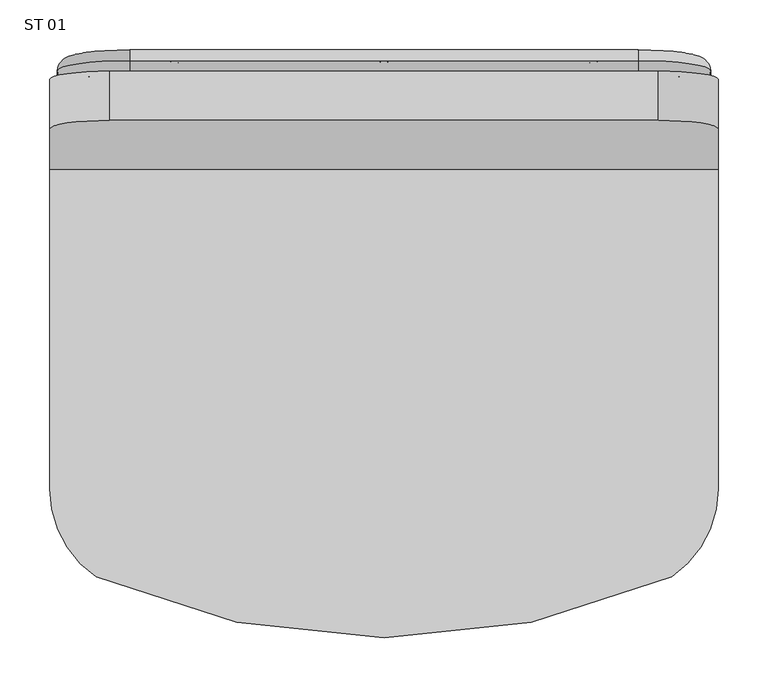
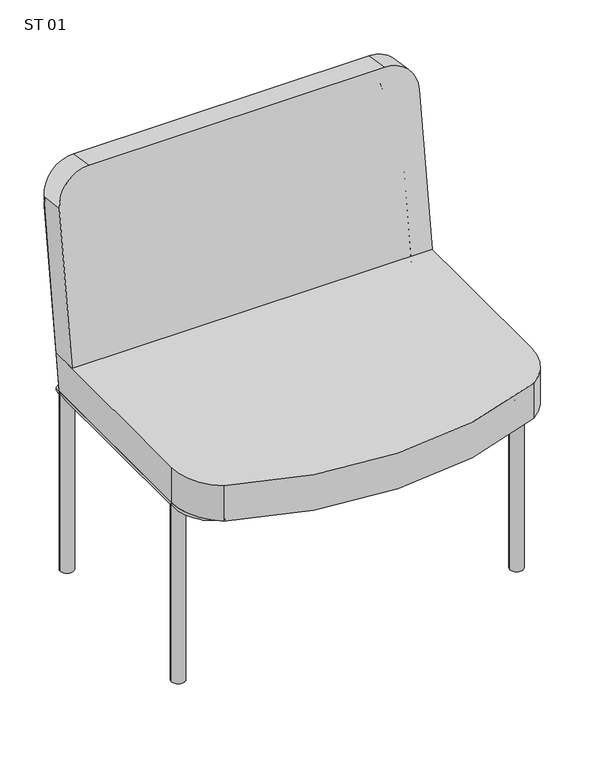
"""IFC4 building model written with IfcOpenShell, lengths in millimetres: furniture geometry, Mobiliário_Mobiliário de Escritório_Sofá - ST 01_Marelli : ST 01."""

import ifcopenshell
import ifcopenshell.guid

model = None  # the IFC model being written
_history = None  # IfcOwnerHistory: only IFC2X3 demands one
_inside = {}  # id of a spatial element -> (the spatial element, [elements in it])
_under = {}  # id of a project, library or spatial element -> (it, [spatial elements below it])
_declared = {}  # id of a project -> (the project, [libraries it declares])
_typed = {}  # id of a type object -> (the type object, [elements of that type])
_made_of = {}  # id of a material, layer set ... -> (it, [elements and type objects made of it])


def new_model(schema):
    """Start an empty IFC model of exactly this schema.

    Asked for "IFC4X3", IfcOpenShell would pick the latest addendum, in which some entities
    have other attributes; the version numbers below select the first issue.
    IFC2X3 requires an IfcOwnerHistory on every rooted entity: one is made here for all.
    """
    global model, _history
    if schema == "IFC4X3":
        model = ifcopenshell.file(schema_version=(4, 3, 0, 0))
    else:
        model = ifcopenshell.file(schema=schema)
    _inside.clear()
    _under.clear()
    _declared.clear()
    _typed.clear()
    _made_of.clear()
    _history = None
    if model.schema == "IFC2X3":
        org = make("IfcOrganization", Name="unknown")
        user = make(
            "IfcPersonAndOrganization",
            ThePerson=make("IfcPerson", FamilyName="unknown"),
            TheOrganization=org,
        )
        app = make(
            "IfcApplication",
            ApplicationDeveloper=org,
            Version="unknown",
            ApplicationFullName="unknown",
            ApplicationIdentifier="unknown",
        )
        _history = make(
            "IfcOwnerHistory",
            OwningUser=user,
            OwningApplication=app,
            ChangeAction="ADDED",
            CreationDate=0,
        )
    return model


def make(cls, **values):
    """One entity of the class cls with the attributes given. An attribute that is None is left unset."""
    return model.create_entity(
        cls, **{name: value for name, value in values.items() if value is not None}
    )


def rooted(cls, **values):
    """An entity with a GlobalId (a new one), such as an element, a storey or a relation."""
    return make(cls, GlobalId=ifcopenshell.guid.new(), OwnerHistory=_history, **values)


def si_unit(unit_type, name, prefix=None):
    """IfcSIUnit, for example si_unit("LENGTHUNIT", "METRE", prefix="MILLI")."""
    return make("IfcSIUnit", UnitType=unit_type, Prefix=prefix, Name=name)


def assignment(units):
    """IfcUnitAssignment: the units of a project."""
    return None if units is None else make("IfcUnitAssignment", Units=units)


def point(xyz):
    """IfcCartesianPoint."""
    return None if xyz is None else make("IfcCartesianPoint", Coordinates=xyz)


def direction(xyz):
    """IfcDirection."""
    return None if xyz is None else make("IfcDirection", DirectionRatios=xyz)


def frame(location, z_axis=None, x_axis=None):
    """IfcAxis2Placement3D, a coordinate frame: its origin and axes. An axis left out is left unset."""
    return make(
        "IfcAxis2Placement3D",
        Location=point(location),
        Axis=direction(z_axis),
        RefDirection=direction(x_axis),
    )


def frame_2d(location, x_axis=None):
    """IfcAxis2Placement2D, a coordinate frame in the plane: its origin and x axis."""
    return make(
        "IfcAxis2Placement2D", Location=point(location), RefDirection=direction(x_axis)
    )


def origin():
    """The frame at (0, 0, 0) with its axes left unset."""
    return frame((0.0, 0.0, 0.0))


def origin_with_axes():
    """The frame at (0, 0, 0) with the z axis (0, 0, 1) and the x axis (1, 0, 0) written out."""
    return frame((0.0, 0.0, 0.0), z_axis=(0.0, 0.0, 1.0), x_axis=(1.0, 0.0, 0.0))


def place(relative_to, where):
    """IfcLocalPlacement: puts the frame where relative to a parent placement (None: the world)."""
    return make(
        "IfcLocalPlacement", PlacementRelTo=relative_to, RelativePlacement=where
    )


def context(
    kind, dimensions, precision=None, world=None, true_north=None, identifier=None
):
    """IfcGeometricRepresentationContext, for example the 3D "Model" context."""
    return make(
        "IfcGeometricRepresentationContext",
        ContextIdentifier=identifier,
        ContextType=kind,
        CoordinateSpaceDimension=dimensions,
        Precision=precision,
        WorldCoordinateSystem=world,
        TrueNorth=true_north,
    )


def project(units=None, contexts=None):
    """IfcProject with its units and contexts."""
    return rooted(
        "IfcProject",
        Name="project",
        RepresentationContexts=contexts,
        UnitsInContext=assignment(units),
    )


def spatial(cls, under=None, at=None, **own):
    """A site, building, storey or space (cls), placed at a placement, below another one or the project."""
    s = rooted(cls, ObjectPlacement=at, **own)
    if under is not None:
        _under.setdefault(under.id(), (under, []))[1].append(s)
    return s


def circle_curve(where, radius):
    """IfcCircle in the frame where."""
    return make("IfcCircle", Position=where, Radius=radius)


def ellipse_curve(where, semi_axis1, semi_axis2):
    """IfcEllipse in the frame where."""
    return make(
        "IfcEllipse", Position=where, SemiAxis1=semi_axis1, SemiAxis2=semi_axis2
    )


def trimmed(basis, trim1, trim2, sense, master):
    """IfcTrimmedCurve: the piece of a basis curve between two trims."""
    return make(
        "IfcTrimmedCurve",
        BasisCurve=basis,
        Trim1=trim1,
        Trim2=trim2,
        SenseAgreement=sense,
        MasterRepresentation=master,
    )


def segment(curve, same_sense, transition):
    """IfcCompositeCurveSegment."""
    return make(
        "IfcCompositeCurveSegment",
        Transition=transition,
        SameSense=same_sense,
        ParentCurve=curve,
    )


def composite_curve(segments, self_intersect=None):
    """IfcCompositeCurve: segments joined end to end."""
    return make("IfcCompositeCurve", Segments=segments, SelfIntersect=self_intersect)


def outline(outer, holes=None, kind="AREA"):
    """IfcArbitraryClosedProfileDef: a profile drawn as a closed curve; with holes, ...WithVoids."""
    if holes is None:
        return make("IfcArbitraryClosedProfileDef", ProfileType=kind, OuterCurve=outer)
    return make(
        "IfcArbitraryProfileDefWithVoids",
        ProfileType=kind,
        OuterCurve=outer,
        InnerCurves=holes,
    )


def extrude(swept, where, along, depth):
    """IfcExtrudedAreaSolid: the profile swept, set in the frame where, extruded along a direction by depth."""
    return make(
        "IfcExtrudedAreaSolid",
        SweptArea=swept,
        Position=where,
        ExtrudedDirection=direction(along),
        Depth=depth,
    )


def shape(context_of_items, identifier, shape_type, items):
    """IfcShapeRepresentation: the items that make up one representation, for example the "Body"."""
    return make(
        "IfcShapeRepresentation",
        ContextOfItems=context_of_items,
        RepresentationIdentifier=identifier,
        RepresentationType=shape_type,
        Items=items,
    )


def source(mapping_origin, context_of_items, identifier, shape_type, items):
    """IfcRepresentationMap: a shape defined once, which mapped items show again and again."""
    return make(
        "IfcRepresentationMap",
        MappingOrigin=mapping_origin,
        MappedRepresentation=shape(context_of_items, identifier, shape_type, items),
    )


def transform(
    local_origin,
    x_axis=None,
    y_axis=None,
    z_axis=None,
    scale=None,
    scale2=None,
    scale3=None,
    uniform=True,
):
    """IfcCartesianTransformationOperator3D, or its non-uniform kind. x_axis, y_axis, z_axis: its Axis1, 2, 3."""
    if uniform:
        return make(
            "IfcCartesianTransformationOperator3D",
            Axis1=direction(x_axis),
            Axis2=direction(y_axis),
            LocalOrigin=point(local_origin),
            Scale=scale,
            Axis3=direction(z_axis),
        )
    return make(
        "IfcCartesianTransformationOperator3DnonUniform",
        Axis1=direction(x_axis),
        Axis2=direction(y_axis),
        LocalOrigin=point(local_origin),
        Scale=scale,
        Axis3=direction(z_axis),
        Scale2=scale2,
        Scale3=scale3,
    )


def mapped(mapping_source, mapping_target):
    """IfcMappedItem: shows the shape of a source again, moved by a transform."""
    return make(
        "IfcMappedItem", MappingSource=mapping_source, MappingTarget=mapping_target
    )


def made_of(thing, what):
    """Note that an element or type object is made of a material, layer set ...; save() writes the relation."""
    if what is not None:
        _made_of.setdefault(what.id(), (what, []))[1].append(thing)
    return thing


def element(
    cls,
    number,
    at=None,
    inside=None,
    cuts=None,
    type_object=None,
    material=None,
    context=None,
    identifier="Body",
    shape_type=None,
    held_by="IfcProductDefinitionShape",
    body=None,
    shapes=None,
    **own,
):
    """One element of the class cls, such as IfcWall. Its Tag is "e" and its number.

    at: its placement. inside: the storey or other place that contains it. cuts: it is an
    opening in that element (IfcRelVoidsElement). A single representation is given by context,
    identifier, shape_type and body (its items); several are given by shapes. held_by: the class
    of the entity that holds the representations. save() writes the other relations.
    """
    e = rooted(cls, Tag="e%d" % number, ObjectPlacement=at, **own)
    if body is not None:
        shapes = [shape(context, identifier, shape_type, body)]
    if shapes is not None:
        e.Representation = make(held_by, Representations=shapes)
    if inside is not None:
        _inside.setdefault(inside.id(), (inside, []))[1].append(e)
    if cuts is not None:
        rooted(
            "IfcRelVoidsElement", RelatingBuildingElement=cuts, RelatedOpeningElement=e
        )
    if type_object is not None:
        _typed.setdefault(type_object.id(), (type_object, []))[1].append(e)
    return made_of(e, material)


def aggregate(whole, parts):
    """IfcRelAggregates: a whole, such as a stair, and the parts it consists of."""
    return rooted("IfcRelAggregates", RelatingObject=whole, RelatedObjects=parts)


def save(model, path):
    """Write the relations noted so far, then the file.

    IfcRelAggregates (storeys below a building ...), IfcRelContainedInSpatialStructure (elements
    in a storey), IfcRelDefinesByType, IfcRelAssociatesMaterial and IfcRelDeclares: one each for
    every whole, place, type object, material and project.
    """
    for whole, parts in _under.values():
        aggregate(whole, parts)
    for where, things in _inside.values():
        rooted(
            "IfcRelContainedInSpatialStructure",
            RelatedElements=things,
            RelatingStructure=where,
        )
    for kind, things in _typed.values():
        rooted("IfcRelDefinesByType", RelatedObjects=things, RelatingType=kind)
    for what, things in _made_of.values():
        rooted("IfcRelAssociatesMaterial", RelatedObjects=things, RelatingMaterial=what)
    for by, libraries in _declared.values():
        rooted("IfcRelDeclares", RelatingContext=by, RelatedDefinitions=libraries)
    model.write(path)


def plane_surface(at):
    """IfcPlane: the flat surface through the origin of the frame at, square to its z axis."""
    return make("IfcPlane", Position=at)


def cylinder_surface(at, radius):
    """IfcCylindricalSurface: all points at the distance radius from the z axis of the frame at."""
    return make("IfcCylindricalSurface", Position=at, Radius=radius)


def revolved_surface(curve, axis_point, axis_direction):
    """IfcSurfaceOfRevolution: the curve turned about the line through axis_point along axis_direction."""
    return make(
        "IfcSurfaceOfRevolution",
        SweptCurve=make("IfcArbitraryOpenProfileDef", ProfileType="CURVE", Curve=curve),
        AxisPosition=make("IfcAxis1Placement", Location=point(axis_point), Axis=direction(axis_direction)),
    )


def extruded_surface(curve, direction_of_extrusion, depth):
    """IfcSurfaceOfLinearExtrusion: the curve pushed along a direction by depth."""
    return make(
        "IfcSurfaceOfLinearExtrusion",
        SweptCurve=make("IfcArbitraryOpenProfileDef", ProfileType="CURVE", Curve=curve),
        ExtrudedDirection=direction(direction_of_extrusion),
        Depth=depth,
    )


def advanced_brep(points, edges, surfaces, faces):
    """IfcAdvancedBrep: a solid bounded by faces that lie on surfaces and meet in shared edges.

    An edge is (start, end): straight between two places in points (the first is 0);
    or (start, end, curve); or (start, end, curve, False) where it runs against its curve.
    A face is (place in surfaces, loops), or (place, loops, False) where it looks against
    its surface's normal. A loop lists edges by number (the first is 1), with a minus sign
    where the edge is run from its end to its start. The first loop is the outer one.
    """
    corners = [point(p) for p in points]
    vertices = [make("IfcVertexPoint", VertexGeometry=c) for c in corners]
    made = []
    for start, end, *more in edges:
        made.append(
            make(
                "IfcEdgeCurve",
                EdgeStart=vertices[start],
                EdgeEnd=vertices[end],
                EdgeGeometry=more[0] if more else make("IfcPolyline", Points=[corners[start], corners[end]]),
                SameSense=more[1] if len(more) > 1 else True,
            )
        )
    hull = []
    for where, loops, *sense in faces:
        bounds = []
        for j, loop in enumerate(loops):
            ring = [make("IfcOrientedEdge", EdgeElement=made[abs(k) - 1], Orientation=k > 0) for k in loop]
            bounds.append(
                make(
                    "IfcFaceOuterBound" if j == 0 else "IfcFaceBound",
                    Bound=make("IfcEdgeLoop", EdgeList=ring),
                    Orientation=True,
                )
            )
        hull.append(make("IfcAdvancedFace", Bounds=bounds, FaceSurface=surfaces[where], SameSense=sense[0] if sense else True))
    return make("IfcAdvancedBrep", Outer=make("IfcClosedShell", CfsFaces=hull))


def st_01_29b2883a(model_context):
    return source(origin(), model_context, "Body", "SolidModel", [
        advanced_brep(
        [(617.5, 412.5, 351.5), (642.5, 437.5, 351.5), (642.5, 65.0, 351.5), (617.5, 65.0, 351.5), (565.0, 12.5, 351.5), (565.0, -12.5, 351.5), (65.0, -12.5, 351.5), (65.0, 12.5, 351.5), (12.5, 65.0, 351.5), (-12.5, 65.0, 351.5), (-12.5, 437.5, 351.5), (12.5, 412.5, 351.5)],
        [
            (0, 1, ellipse_curve(frame((630.0, 425.0, 351.5), z_axis=(0.7071067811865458, -0.7071067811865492, 0.0), x_axis=(0.7071067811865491, 0.7071067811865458, 0.0)), 17.6776695, 12.5)),
            (1, 2),
            (2, 3, circle_curve(frame((630.0, 65.0, 351.5), z_axis=(0.0, 1.0, 0.0), x_axis=(-1.0, 0.0, 0.0)), 12.5)),
            (3, 0),
            (1, 0, ellipse_curve(frame((630.0, 425.0, 351.5), z_axis=(0.7071067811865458, -0.7071067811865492, 0.0), x_axis=(0.7071067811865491, 0.7071067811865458, 0.0)), 17.6776695, 12.5)),
            (3, 2, circle_curve(frame((630.0, 65.0, 351.5), z_axis=(0.0, 1.0, 0.0), x_axis=(-1.0, 0.0, 0.0)), 12.5)),
            (4, 3, circle_curve(frame((565.0, 65.0, 351.5), z_axis=(0.0, 0.0, 1.0), x_axis=(1.0, 0.0, 0.0)), 52.5)),
            (2, 5, circle_curve(frame((565.0, 65.0, 351.5), z_axis=(0.0, 0.0, -1.0), x_axis=(1.0, 0.0, 0.0)), 77.5)),
            (5, 4, circle_curve(frame((565.0, 0.0, 351.5), z_axis=(1.0, 0.0, 0.0), x_axis=(0.0, 1.0, 0.0)), 12.5)),
            (4, 5, circle_curve(frame((565.0, 0.0, 351.5), z_axis=(1.0, 0.0, 0.0), x_axis=(0.0, 1.0, 0.0)), 12.5)),
            (5, 6),
            (6, 7, circle_curve(frame((65.0, 0.0, 351.5), z_axis=(1.0, 0.0, 0.0), x_axis=(0.0, 1.0, 0.0)), 12.5)),
            (7, 4),
            (7, 6, circle_curve(frame((65.0, 0.0, 351.5), z_axis=(1.0, 0.0, 0.0), x_axis=(0.0, 1.0, 0.0)), 12.5)),
            (8, 7, circle_curve(frame((65.0, 65.0, 351.5), z_axis=(0.0, 0.0, 1.0), x_axis=(0.0, -1.0, 0.0)), 52.5)),
            (6, 9, circle_curve(frame((65.0, 65.0, 351.5), z_axis=(0.0, 0.0, -1.0), x_axis=(0.0, -1.0, 0.0)), 77.5)),
            (9, 8, circle_curve(frame((0.0, 65.0, 351.5), z_axis=(0.0, -1.0, 0.0), x_axis=(1.0, 0.0, 0.0)), 12.5)),
            (8, 9, circle_curve(frame((0.0, 65.0, 351.5), z_axis=(0.0, -1.0, 0.0), x_axis=(1.0, 0.0, 0.0)), 12.5)),
            (9, 10),
            (10, 11, ellipse_curve(frame((0.0, 425.0, 351.5), z_axis=(-0.7071067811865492, -0.7071067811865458, 0.0), x_axis=(0.7071067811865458, -0.7071067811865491, 0.0)), 17.6776695, 12.5)),
            (11, 8),
            (11, 10, ellipse_curve(frame((0.0, 425.0, 351.5), z_axis=(-0.7071067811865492, -0.7071067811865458, 0.0), x_axis=(0.7071067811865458, -0.7071067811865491, 0.0)), 17.6776695, 12.5)),
            (10, 1),
            (0, 11),
        ],
        [
            cylinder_surface(frame((630.0, 425.0, 351.5), z_axis=(0.0, 1.0, 0.0), x_axis=(-1.0, 0.0, 0.0)), 12.5),
            revolved_surface(trimmed(ellipse_curve(frame((630.0, 65.0, 351.5), z_axis=(0.0, 1.0, 0.0), x_axis=(-1.0, 0.0, 0.0)), 12.5, 12.5), [point((642.5, 65.0, 351.5))], [point((617.5, 65.0, 351.5))], True, "CARTESIAN"), (565.0, 65.0, 0.0), (0.0, 0.0, -1.0)),
            revolved_surface(trimmed(ellipse_curve(frame((630.0, 65.0, 351.5), z_axis=(0.0, 1.0, 0.0), x_axis=(-1.0, 0.0, 0.0)), 12.5, 12.5), [point((617.5, 65.0, 351.5))], [point((642.5, 65.0, 351.5))], True, "CARTESIAN"), (565.0, 65.0, 0.0), (0.0, 0.0, -1.0)),
            cylinder_surface(frame((565.0, 0.0, 351.5), z_axis=(1.0, 0.0, 0.0), x_axis=(0.0, 1.0, 0.0)), 12.5),
            revolved_surface(trimmed(ellipse_curve(frame((65.0, 0.0, 351.5), z_axis=(1.0, 0.0, 0.0), x_axis=(0.0, 1.0, 0.0)), 12.5, 12.5), [point((65.0, -12.5, 351.5))], [point((65.0, 12.5, 351.5))], True, "CARTESIAN"), (65.0, 65.0, 0.0), (0.0, 0.0, -1.0)),
            revolved_surface(trimmed(ellipse_curve(frame((65.0, 0.0, 351.5), z_axis=(1.0, 0.0, 0.0), x_axis=(0.0, 1.0, 0.0)), 12.5, 12.5), [point((65.0, 12.5, 351.5))], [point((65.0, -12.5, 351.5))], True, "CARTESIAN"), (65.0, 65.0, 0.0), (0.0, 0.0, -1.0)),
            cylinder_surface(frame((0.0, 65.0, 351.5), z_axis=(0.0, -1.0, 0.0), x_axis=(1.0, 0.0, 0.0)), 12.5),
            cylinder_surface(frame((0.0, 425.0, 351.5), z_axis=(-1.0, 0.0, 0.0), x_axis=(0.0, -1.0, 0.0)), 12.5),
        ],
        [
            (0, [[1, 2, 3, 4]]),
            (0, [[5, -4, 6, -2]]),
            (1, [[7, -3, 8, 9]]),
            (2, [[-8, -6, -7, 10]]),
            (3, [[-9, 11, 12, 13]]),
            (3, [[-10, -13, 14, -11]]),
            (4, [[15, -12, 16, 17]]),
            (5, [[-16, -14, -15, 18]]),
            (6, [[-17, 19, 20, 21]]),
            (6, [[-18, -21, 22, -19]]),
            (7, [[-20, 23, -1, 24]]),
            (7, [[-22, -24, -5, -23]]),
        ],
    ),
        extrude(outline(composite_curve([segment(trimmed(circle_curve(frame_2d((630.0, 425.0)), 12.5), [point((617.5, 425.0))], [point((642.5, 425.0))], False, "CARTESIAN"), True, "CONTINUOUS"), segment(trimmed(circle_curve(frame_2d((630.0, 425.0)), 12.5), [point((642.5, 425.0))], [point((617.5, 425.0))], False, "CARTESIAN"), True, "CONTINUOUS")], self_intersect=False)), origin_with_axes(), (0.0, 0.0, 1.0), 351.5),
        extrude(outline(composite_curve([segment(trimmed(circle_curve(frame_2d((0.0, 425.0)), 12.5), [point((-12.5, 425.0))], [point((12.5, 425.0))], False, "CARTESIAN"), True, "CONTINUOUS"), segment(trimmed(circle_curve(frame_2d((0.0, 425.0)), 12.5), [point((12.5, 425.0))], [point((-12.5, 425.0))], False, "CARTESIAN"), True, "CONTINUOUS")], self_intersect=False)), origin_with_axes(), (0.0, 0.0, 1.0), 351.5),
        extrude(outline(composite_curve([segment(trimmed(circle_curve(frame_2d((630.0, 66.3272741)), 12.5), [point((617.5, 66.3272741))], [point((642.5, 66.3272741))], False, "CARTESIAN"), True, "CONTINUOUS"), segment(trimmed(circle_curve(frame_2d((630.0, 66.3272741)), 12.5), [point((642.5, 66.3272741))], [point((617.5, 66.3272741))], False, "CARTESIAN"), True, "CONTINUOUS")], self_intersect=False)), origin_with_axes(), (0.0, 0.0, 1.0), 351.5),
        extrude(outline(composite_curve([segment(trimmed(circle_curve(frame_2d((0.0, 66.3272741)), 12.5), [point((-12.5, 66.3272741))], [point((12.5, 66.3272741))], False, "CARTESIAN"), True, "CONTINUOUS"), segment(trimmed(circle_curve(frame_2d((0.0, 66.3272741)), 12.5), [point((12.5, 66.3272741))], [point((-12.5, 66.3272741))], False, "CARTESIAN"), True, "CONTINUOUS")], self_intersect=False)), origin_with_axes(), (0.0, 0.0, 1.0), 351.5),
        advanced_brep(
        [(-12.5, 425.0, 351.5), (12.5, 425.0, 351.5), (-12.5, 472.3188543, 688.1911434), (12.5, 472.3188543, 688.1911434), (60.0, 478.9295766, 735.2288766), (60.0, 482.4089041, 759.9855784), (570.0, 482.4089041, 759.9855784), (570.0, 478.9295766, 735.2288766), (617.5, 472.3188543, 688.1911434), (642.5, 472.3188543, 688.1911434), (642.5, 425.0, 351.5), (617.5, 425.0, 351.5)],
        [
            (0, 1, circle_curve(frame((0.0, 425.0, 351.5), z_axis=(0.0, -0.13917310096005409, -0.990268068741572), x_axis=(1.0, 0.0, 0.0)), 12.5)),
            (1, 0, circle_curve(frame((0.0, 425.0, 351.5), z_axis=(0.0, -0.13917310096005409, -0.990268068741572), x_axis=(1.0, 0.0, 0.0)), 12.5)),
            (0, 2),
            (2, 3, circle_curve(frame((0.0, 472.3188543, 688.1911434), z_axis=(0.0, -0.13917310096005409, -0.990268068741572), x_axis=(1.0, 0.0, 0.0)), 12.5)),
            (3, 1),
            (3, 2, circle_curve(frame((0.0, 472.3188543, 688.1911434), z_axis=(0.0, -0.13917310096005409, -0.990268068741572), x_axis=(1.0, 0.0, 0.0)), 12.5)),
            (4, 3, circle_curve(frame((60.0, 472.3188543, 688.1911434), z_axis=(0.0, -0.990268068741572, 0.13917310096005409), x_axis=(-1.0, 0.0, 0.0)), 47.5)),
            (2, 5, circle_curve(frame((60.0, 472.3188543, 688.1911434), z_axis=(0.0, 0.990268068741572, -0.13917310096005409), x_axis=(-1.0, 0.0, 0.0)), 72.5)),
            (5, 4, circle_curve(frame((60.0, 480.6692404, 747.6072275), z_axis=(-1.0, 0.0, 0.0), x_axis=(0.0, -0.13917310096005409, -0.990268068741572)), 12.5)),
            (4, 5, circle_curve(frame((60.0, 480.6692404, 747.6072275), z_axis=(-1.0, 0.0, 0.0), x_axis=(0.0, -0.13917310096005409, -0.990268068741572)), 12.5)),
            (5, 6),
            (6, 7, circle_curve(frame((570.0, 480.6692404, 747.6072275), z_axis=(-1.0, 0.0, 0.0), x_axis=(0.0, -0.13917310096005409, -0.990268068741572)), 12.5)),
            (7, 4),
            (7, 6, circle_curve(frame((570.0, 480.6692404, 747.6072275), z_axis=(-1.0, 0.0, 0.0), x_axis=(0.0, -0.13917310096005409, -0.990268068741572)), 12.5)),
            (8, 7, circle_curve(frame((570.0, 472.3188543, 688.1911434), z_axis=(0.0, -0.990268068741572, 0.13917310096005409), x_axis=(0.0, 0.13917310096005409, 0.990268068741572)), 47.5)),
            (6, 9, circle_curve(frame((570.0, 472.3188543, 688.1911434), z_axis=(0.0, 0.990268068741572, -0.13917310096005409), x_axis=(0.0, 0.13917310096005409, 0.990268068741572)), 72.5)),
            (9, 8, circle_curve(frame((630.0, 472.3188543, 688.1911434), z_axis=(0.0, 0.13917310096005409, 0.990268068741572), x_axis=(-1.0000000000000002, 0.0, 0.0)), 12.5)),
            (8, 9, circle_curve(frame((630.0, 472.3188543, 688.1911434), z_axis=(0.0, 0.13917310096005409, 0.990268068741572), x_axis=(-1.0000000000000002, 0.0, 0.0)), 12.5)),
            (10, 11, circle_curve(frame((630.0, 425.0, 351.5), z_axis=(0.0, -0.13917310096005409, -0.9902680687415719), x_axis=(-1.0, 0.0, 0.0)), 12.5)),
            (11, 10, circle_curve(frame((630.0, 425.0, 351.5), z_axis=(0.0, -0.13917310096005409, -0.9902680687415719), x_axis=(-1.0, 0.0, 0.0)), 12.5)),
            (9, 10),
            (11, 8),
        ],
        [
            plane_surface(frame((0.0, 4.1360708, 410.6485679), z_axis=(0.0, -0.13917310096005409, -0.990268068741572), x_axis=(0.0, -0.990268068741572, 0.13917310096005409))),
            cylinder_surface(frame((0.0, 425.0, 351.5), z_axis=(0.0, -0.13917310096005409, -0.990268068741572), x_axis=(1.0, 0.0, 0.0)), 12.5),
            revolved_surface(trimmed(ellipse_curve(frame((0.0, 472.3188543, 688.1911434), z_axis=(0.0, -0.13917310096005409, -0.990268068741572), x_axis=(1.0, 0.0, 0.0)), 12.5, 12.5), [point((-12.5, 472.3188543, 688.1911434))], [point((12.5, 472.3188543, 688.1911434))], True, "CARTESIAN"), (60.0, 51.4549251, 747.3397113), (0.0, 0.990268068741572, -0.13917310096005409)),
            revolved_surface(trimmed(ellipse_curve(frame((0.0, 472.3188543, 688.1911434), z_axis=(0.0, -0.13917310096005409, -0.990268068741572), x_axis=(1.0, 0.0, 0.0)), 12.5, 12.5), [point((12.5, 472.3188543, 688.1911434))], [point((-12.5, 472.3188543, 688.1911434))], True, "CARTESIAN"), (60.0, 51.4549251, 747.3397113), (0.0, 0.990268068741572, -0.13917310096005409)),
            cylinder_surface(frame((60.0, 480.6692404, 747.6072275), z_axis=(-1.0, 0.0, 0.0), x_axis=(0.0, -0.13917310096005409, -0.990268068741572)), 12.5),
            revolved_surface(trimmed(ellipse_curve(frame((570.0, 480.6692404, 747.6072275), z_axis=(-1.0000000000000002, 0.0, 0.0), x_axis=(0.0, -0.13917310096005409, -0.990268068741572)), 12.5, 12.5), [point((570.0, 482.4089041, 759.9855784))], [point((570.0, 478.9295766, 735.2288766))], True, "CARTESIAN"), (570.0, 51.4549251, 747.3397113), (0.0, 0.990268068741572, -0.13917310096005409)),
            revolved_surface(trimmed(ellipse_curve(frame((570.0, 480.6692404, 747.6072275), z_axis=(-1.0000000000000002, 0.0, 0.0), x_axis=(0.0, -0.13917310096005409, -0.990268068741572)), 12.5, 12.5), [point((570.0, 478.9295766, 735.2288766))], [point((570.0, 482.4089041, 759.9855784))], True, "CARTESIAN"), (570.0, 51.4549251, 747.3397113), (0.0, 0.990268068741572, -0.13917310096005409)),
            plane_surface(frame((630.0, 4.1360708, 410.6485679), z_axis=(0.0, -0.13917310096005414, -0.990268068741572), x_axis=(0.0, -0.990268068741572, 0.13917310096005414))),
            cylinder_surface(frame((630.0, 472.3188543, 688.1911434), z_axis=(0.0, 0.13917310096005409, 0.9902680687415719), x_axis=(-1.0, 0.0, 0.0)), 12.5),
        ],
        [
            (0, [[1, 2]]),
            (1, [[-1, 3, 4, 5]]),
            (1, [[-2, -5, 6, -3]]),
            (2, [[7, -4, 8, 9]]),
            (3, [[-8, -6, -7, 10]]),
            (4, [[-9, 11, 12, 13]]),
            (4, [[-10, -13, 14, -11]]),
            (5, [[15, -12, 16, 17]]),
            (6, [[-16, -14, -15, 18]]),
            (7, [[19, 20]]),
            (8, [[-17, 21, -20, 22]]),
            (8, [[-18, -22, -19, -21]]),
        ],
    ),
        advanced_brep(
        [(650.0, 373.2866825, 433.0), (650.0, 423.7780611, 433.0), (650.0, 463.5119814, 715.7215336), (650.0, 413.998578, 722.6801887), (-20.0, 413.998578, 722.6801887), (-20.0, 463.5119814, 715.7215336), (-20.0, 423.7780611, 433.0), (-20.0, 373.2866825, 433.0), (590.0, 422.348964, 782.0962728), (40.0, 422.348964, 782.0962728), (40.0, 471.8623675, 775.1376178), (590.0, 471.8623675, 775.1376178)],
        [
            (0, 1),
            (1, 2),
            (2, 3),
            (3, 0),
            (4, 5),
            (5, 6),
            (6, 7),
            (7, 4),
            (0, 7),
            (6, 1),
            (3, 8, circle_curve(frame((590.0, 413.998578, 722.6801887), z_axis=(0.0, -0.9902680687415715, 0.13917310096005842), x_axis=(-1.0, 0.0, 0.0)), 60.0)),
            (8, 9),
            (9, 4, circle_curve(frame((40.0, 413.998578, 722.6801887), z_axis=(0.0, -0.9902680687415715, 0.13917310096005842), x_axis=(1.0, 0.0, 0.0)), 60.0)),
            (5, 10, circle_curve(frame((40.0, 463.5119814, 715.7215336), z_axis=(0.0, 0.9902680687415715, -0.13917310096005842), x_axis=(1.0, 0.0, 0.0)), 60.0)),
            (10, 11),
            (11, 2, circle_curve(frame((590.0, 463.5119814, 715.7215336), z_axis=(0.0, 0.9902680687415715, -0.13917310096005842), x_axis=(-1.0, 0.0, 0.0)), 60.0)),
            (11, 8),
            (10, 9),
        ],
        [
            plane_surface(frame((650.0, 423.77933, 433.0), z_axis=(1.0, 0.0, 0.0), x_axis=(0.0, 1.0, 0.0))),
            plane_surface(frame((-20.0, 423.77933, 433.0), z_axis=(-1.0, 0.0, 0.0), x_axis=(0.0, -1.0, 0.0))),
            plane_surface(frame((650.0, 373.2866825, 433.0), z_axis=(0.0, 0.0, -1.0), x_axis=(-1.0, 0.0, 0.0))),
            plane_surface(frame((650.0, 374.2646577, 439.958655), z_axis=(0.0, -0.9902680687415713, 0.13917310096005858), x_axis=(-1.0, 0.0, 0.0))),
            plane_surface(frame((650.0, 418.9765891, 398.8357516), z_axis=(0.0, 0.9902680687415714, -0.13917310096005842), x_axis=(0.0, -0.13917310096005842, -0.9902680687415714))),
            cylinder_surface(frame((590.0, 463.5119814, 715.7215336), z_axis=(0.0, -0.9902680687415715, 0.13917310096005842), x_axis=(-1.0, 0.0, 0.0)), 60.0),
            plane_surface(frame((590.0, 422.348964, 782.0962728), z_axis=(0.0, 0.13917310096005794, 0.9902680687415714), x_axis=(0.0, 0.9902680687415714, -0.13917310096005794))),
            cylinder_surface(frame((40.0, 463.5119814, 715.7215336), z_axis=(0.0, -0.9902680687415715, 0.13917310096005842), x_axis=(1.0, 0.0, 0.0)), 60.0),
        ],
        [
            (0, [[1, 2, 3, 4]]),
            (1, [[5, 6, 7, 8]]),
            (2, [[-1, 9, -7, 10]]),
            (3, [[-4, 11, 12, 13, -8, -9]]),
            (4, [[-6, 14, 15, 16, -2, -10]]),
            (5, [[-11, -3, -16, 17]]),
            (6, [[-12, -17, -15, 18]]),
            (7, [[-13, -18, -14, -5]]),
        ],
    ),
        advanced_brep(
        [(650.0, 414.0807435, 364.0), (650.0, 423.7780611, 433.0), (650.0, 53.2866825, 433.0), (650.0, 53.2866825, 364.0), (-20.0, 423.7780611, 433.0), (-20.0, 414.0807435, 364.0), (-20.0, 53.2866825, 364.0), (-20.0, 53.2866825, 433.0), (26.4720369, -35.1010659, 433.0), (603.5582596, -35.0802115, 433.0), (603.5582596, -35.0802115, 364.0), (26.4720369, -35.1010659, 364.0)],
        [
            (0, 1),
            (1, 2),
            (2, 3),
            (3, 0),
            (4, 5),
            (5, 6),
            (6, 7),
            (7, 4),
            (0, 5),
            (4, 1),
            (7, 8, circle_curve(frame((87.2908026, 53.2866825, 433.0), z_axis=(0.0, 0.0, 1.0), x_axis=(-1.0, 0.0, 0.0)), 107.2908026)),
            (8, 9, circle_curve(frame((314.9916373, 615.508432, 433.0), z_axis=(0.0, 0.0, 1.0), x_axis=(1.0, 0.0, 0.0)), 711.7136212)),
            (9, 2, circle_curve(frame((542.7091974, 53.2866825, 433.0), z_axis=(0.0, 0.0, 1.0), x_axis=(1.0, 0.0, 0.0)), 107.2908026)),
            (3, 10, circle_curve(frame((542.7091974, 53.2866825, 364.0), z_axis=(0.0, 0.0, -1.0), x_axis=(1.0, 0.0, 0.0)), 107.2908026)),
            (10, 11, circle_curve(frame((314.9916373, 615.508432, 364.0), z_axis=(0.0, 0.0, -1.0), x_axis=(1.0, 0.0, 0.0)), 711.7136212)),
            (11, 6, circle_curve(frame((87.2908026, 53.2866825, 364.0), z_axis=(0.0, 0.0, -1.0), x_axis=(-1.0, 0.0, 0.0)), 107.2908026)),
            (11, 8),
            (10, 9),
        ],
        [
            plane_surface(frame((650.0, 414.0807435, 364.0), z_axis=(1.0000000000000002, 0.0, 0.0), x_axis=(0.0, 0.13917310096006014, 0.9902680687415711))),
            plane_surface(frame((-20.0, 414.0807435, 364.0), z_axis=(-1.0000000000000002, 0.0, 0.0), x_axis=(0.0, -0.13917310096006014, -0.9902680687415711))),
            plane_surface(frame((650.0, 414.0807435, 364.0), z_axis=(0.0, 0.9902680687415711, -0.13917310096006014), x_axis=(-1.0, 0.0, 0.0))),
            plane_surface(frame((650.0, 423.7780611, 433.0), z_axis=(0.0, 0.0, 1.0), x_axis=(-1.0, 0.0, 0.0))),
            plane_surface(frame((-20.0, 414.0807435, 364.0), z_axis=(0.0, 0.0, -1.0), x_axis=(1.0, 0.0, 0.0))),
            cylinder_surface(frame((87.2908026, 53.2866825, 364.0), z_axis=(0.0, 0.0, 1.0), x_axis=(-1.0, 0.0, 0.0)), 107.2908026),
            cylinder_surface(frame((314.9916373, 615.508432, 364.0), z_axis=(0.0, 0.0, 1.0), x_axis=(1.0, 0.0, 0.0)), 711.7136212),
            cylinder_surface(frame((542.7091974, 53.2866825, 364.0), z_axis=(0.0, 0.0, 1.0), x_axis=(1.0, 0.0, 0.0)), 107.2908026),
        ],
        [
            (0, [[1, 2, 3, 4]]),
            (1, [[5, 6, 7, 8]]),
            (2, [[-1, 9, -5, 10]]),
            (3, [[-2, -10, -8, 11, 12, 13]]),
            (4, [[-4, 14, 15, 16, -6, -9]]),
            (5, [[-11, -7, -16, 17]]),
            (6, [[-12, -17, -15, 18]]),
            (7, [[-13, -18, -14, -3]]),
        ],
    ),
        advanced_brep(
        [(101.0, 481.2780611, 750.0), (109.0, 481.2780611, 750.0), (101.0, 423.7780611, 350.0), (109.0, 423.7780611, 350.0)],
        [
            (0, 1, circle_curve(frame((105.0, 481.2780611, 750.0), z_axis=(0.0, 0.0, 1.0), x_axis=(1.0, 0.0, 0.0)), 4.0)),
            (1, 0, circle_curve(frame((105.0, 481.2780611, 750.0), z_axis=(0.0, 0.0, 1.0), x_axis=(1.0, 0.0, 0.0)), 4.0)),
            (2, 3, circle_curve(frame((105.0, 423.7780611, 350.0), z_axis=(0.0, 0.0, -1.0), x_axis=(1.0, 0.0, 0.0)), 4.0)),
            (3, 2, circle_curve(frame((105.0, 423.7780611, 350.0), z_axis=(0.0, 0.0, -1.0), x_axis=(1.0, 0.0, 0.0)), 4.0)),
            (3, 1),
            (0, 2),
        ],
        [
            plane_surface(frame((105.0, 481.2780611, 750.0), z_axis=(0.0, 0.0, 1.0), x_axis=(0.0, -1.0, 0.0))),
            plane_surface(frame((105.0, 423.7780611, 350.0), z_axis=(0.0, 0.0, -1.0), x_axis=(0.0, -1.0, 0.0))),
            extruded_surface(trimmed(circle_curve(frame((105.0, 423.7780611, 350.0), z_axis=(0.0, 0.0, 1.0), x_axis=(1.0, 0.0, 0.0)), 4.0), [point((101.0, 423.7780611, 350.0))], [point((109.0, 423.7780611, 350.0))], True, "CARTESIAN"), (0.0, 57.5, 400.0), 404.11168010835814),
            extruded_surface(trimmed(circle_curve(frame((105.0, 423.7780611, 350.0), z_axis=(0.0, 0.0, 1.0), x_axis=(1.0, 0.0, 0.0)), 4.0), [point((109.0, 423.7780611, 350.0))], [point((101.0, 423.7780611, 350.0))], True, "CARTESIAN"), (0.0, 57.5, 400.0), 404.11168010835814),
        ],
        [
            (0, [[1, 2]]),
            (1, [[3, 4]]),
            (2, [[-4, 5, -1, 6]]),
            (3, [[-3, -6, -2, -5]]),
        ],
    ),
        advanced_brep(
        [(206.0, 481.2780611, 750.0), (214.0, 481.2780611, 750.0), (206.0, 423.7780611, 350.0), (214.0, 423.7780611, 350.0)],
        [
            (0, 1, circle_curve(frame((210.0, 481.2780611, 750.0), z_axis=(0.0, 0.0, 1.0), x_axis=(1.0, 0.0, 0.0)), 4.0)),
            (1, 0, circle_curve(frame((210.0, 481.2780611, 750.0), z_axis=(0.0, 0.0, 1.0), x_axis=(1.0, 0.0, 0.0)), 4.0)),
            (2, 3, circle_curve(frame((210.0, 423.7780611, 350.0), z_axis=(0.0, 0.0, -1.0), x_axis=(1.0, 0.0, 0.0)), 4.0)),
            (3, 2, circle_curve(frame((210.0, 423.7780611, 350.0), z_axis=(0.0, 0.0, -1.0), x_axis=(1.0, 0.0, 0.0)), 4.0)),
            (3, 1),
            (0, 2),
        ],
        [
            plane_surface(frame((210.0, 481.2780611, 750.0), z_axis=(0.0, 0.0, 1.0), x_axis=(0.0, -1.0, 0.0))),
            plane_surface(frame((210.0, 423.7780611, 350.0), z_axis=(0.0, 0.0, -1.0), x_axis=(0.0, -1.0, 0.0))),
            extruded_surface(trimmed(circle_curve(frame((210.0, 423.7780611, 350.0), z_axis=(0.0, 0.0, 1.0), x_axis=(1.0, 0.0, 0.0)), 4.0), [point((206.0, 423.7780611, 350.0))], [point((214.0, 423.7780611, 350.0))], True, "CARTESIAN"), (0.0, 57.5, 400.0), 404.11168010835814),
            extruded_surface(trimmed(circle_curve(frame((210.0, 423.7780611, 350.0), z_axis=(0.0, 0.0, 1.0), x_axis=(1.0, 0.0, 0.0)), 4.0), [point((214.0, 423.7780611, 350.0))], [point((206.0, 423.7780611, 350.0))], True, "CARTESIAN"), (0.0, 57.5, 400.0), 404.11168010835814),
        ],
        [
            (0, [[1, 2]]),
            (1, [[3, 4]]),
            (2, [[-4, 5, -1, 6]]),
            (3, [[-3, -6, -2, -5]]),
        ],
    ),
        advanced_brep(
        [(311.0, 481.2780611, 750.0), (319.0, 481.2780611, 750.0), (311.0, 423.7780611, 350.0), (319.0, 423.7780611, 350.0)],
        [
            (0, 1, circle_curve(frame((315.0, 481.2780611, 750.0), z_axis=(0.0, 0.0, 1.0), x_axis=(1.0, 0.0, 0.0)), 4.0)),
            (1, 0, circle_curve(frame((315.0, 481.2780611, 750.0), z_axis=(0.0, 0.0, 1.0), x_axis=(1.0, 0.0, 0.0)), 4.0)),
            (2, 3, circle_curve(frame((315.0, 423.7780611, 350.0), z_axis=(0.0, 0.0, -1.0), x_axis=(1.0, 0.0, 0.0)), 4.0)),
            (3, 2, circle_curve(frame((315.0, 423.7780611, 350.0), z_axis=(0.0, 0.0, -1.0), x_axis=(1.0, 0.0, 0.0)), 4.0)),
            (3, 1),
            (0, 2),
        ],
        [
            plane_surface(frame((315.0, 481.2780611, 750.0), z_axis=(0.0, 0.0, 1.0), x_axis=(0.0, -1.0, 0.0))),
            plane_surface(frame((315.0, 423.7780611, 350.0), z_axis=(0.0, 0.0, -1.0), x_axis=(0.0, -1.0, 0.0))),
            extruded_surface(trimmed(circle_curve(frame((315.0, 423.7780611, 350.0), z_axis=(0.0, 0.0, 1.0), x_axis=(1.0, 0.0, 0.0)), 4.0), [point((311.0, 423.7780611, 350.0))], [point((319.0, 423.7780611, 350.0))], True, "CARTESIAN"), (0.0, 57.5, 400.0), 404.11168010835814),
            extruded_surface(trimmed(circle_curve(frame((315.0, 423.7780611, 350.0), z_axis=(0.0, 0.0, 1.0), x_axis=(1.0, 0.0, 0.0)), 4.0), [point((319.0, 423.7780611, 350.0))], [point((311.0, 423.7780611, 350.0))], True, "CARTESIAN"), (0.0, 57.5, 400.0), 404.11168010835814),
        ],
        [
            (0, [[1, 2]]),
            (1, [[3, 4]]),
            (2, [[-4, 5, -1, 6]]),
            (3, [[-3, -6, -2, -5]]),
        ],
    ),
        advanced_brep(
        [(416.0, 481.2780611, 750.0), (424.0, 481.2780611, 750.0), (416.0, 423.7780611, 350.0), (424.0, 423.7780611, 350.0)],
        [
            (0, 1, circle_curve(frame((420.0, 481.2780611, 750.0), z_axis=(0.0, 0.0, 1.0), x_axis=(1.0, 0.0, 0.0)), 4.0)),
            (1, 0, circle_curve(frame((420.0, 481.2780611, 750.0), z_axis=(0.0, 0.0, 1.0), x_axis=(1.0, 0.0, 0.0)), 4.0)),
            (2, 3, circle_curve(frame((420.0, 423.7780611, 350.0), z_axis=(0.0, 0.0, -1.0), x_axis=(1.0, 0.0, 0.0)), 4.0)),
            (3, 2, circle_curve(frame((420.0, 423.7780611, 350.0), z_axis=(0.0, 0.0, -1.0), x_axis=(1.0, 0.0, 0.0)), 4.0)),
            (3, 1),
            (0, 2),
        ],
        [
            plane_surface(frame((420.0, 481.2780611, 750.0), z_axis=(0.0, 0.0, 1.0), x_axis=(0.0, -1.0, 0.0))),
            plane_surface(frame((420.0, 423.7780611, 350.0), z_axis=(0.0, 0.0, -1.0), x_axis=(0.0, -1.0, 0.0))),
            extruded_surface(trimmed(circle_curve(frame((420.0, 423.7780611, 350.0), z_axis=(0.0, 0.0, 1.0), x_axis=(1.0, 0.0, 0.0)), 4.0), [point((416.0, 423.7780611, 350.0))], [point((424.0, 423.7780611, 350.0))], True, "CARTESIAN"), (0.0, 57.5, 400.0), 404.11168010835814),
            extruded_surface(trimmed(circle_curve(frame((420.0, 423.7780611, 350.0), z_axis=(0.0, 0.0, 1.0), x_axis=(1.0, 0.0, 0.0)), 4.0), [point((424.0, 423.7780611, 350.0))], [point((416.0, 423.7780611, 350.0))], True, "CARTESIAN"), (0.0, 57.5, 400.0), 404.11168010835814),
        ],
        [
            (0, [[1, 2]]),
            (1, [[3, 4]]),
            (2, [[-4, 5, -1, 6]]),
            (3, [[-3, -6, -2, -5]]),
        ],
    ),
        advanced_brep(
        [(521.0, 481.2780611, 750.0), (529.0, 481.2780611, 750.0), (521.0, 423.7780611, 350.0), (529.0, 423.7780611, 350.0)],
        [
            (0, 1, circle_curve(frame((525.0, 481.2780611, 750.0), z_axis=(0.0, 0.0, 1.0), x_axis=(1.0, 0.0, 0.0)), 4.0)),
            (1, 0, circle_curve(frame((525.0, 481.2780611, 750.0), z_axis=(0.0, 0.0, 1.0), x_axis=(1.0, 0.0, 0.0)), 4.0)),
            (2, 3, circle_curve(frame((525.0, 423.7780611, 350.0), z_axis=(0.0, 0.0, -1.0), x_axis=(1.0, 0.0, 0.0)), 4.0)),
            (3, 2, circle_curve(frame((525.0, 423.7780611, 350.0), z_axis=(0.0, 0.0, -1.0), x_axis=(1.0, 0.0, 0.0)), 4.0)),
            (3, 1),
            (0, 2),
        ],
        [
            plane_surface(frame((525.0, 481.2780611, 750.0), z_axis=(0.0, 0.0, 1.0), x_axis=(0.0, -1.0, 0.0))),
            plane_surface(frame((525.0, 423.7780611, 350.0), z_axis=(0.0, 0.0, -1.0), x_axis=(0.0, -1.0, 0.0))),
            extruded_surface(trimmed(circle_curve(frame((525.0, 423.7780611, 350.0), z_axis=(0.0, 0.0, 1.0), x_axis=(1.0, 0.0, 0.0)), 4.0), [point((521.0, 423.7780611, 350.0))], [point((529.0, 423.7780611, 350.0))], True, "CARTESIAN"), (0.0, 57.5, 400.0), 404.11168010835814),
            extruded_surface(trimmed(circle_curve(frame((525.0, 423.7780611, 350.0), z_axis=(0.0, 0.0, 1.0), x_axis=(1.0, 0.0, 0.0)), 4.0), [point((529.0, 423.7780611, 350.0))], [point((521.0, 423.7780611, 350.0))], True, "CARTESIAN"), (0.0, 57.5, 400.0), 404.11168010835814),
        ],
        [
            (0, [[1, 2]]),
            (1, [[3, 4]]),
            (2, [[-4, 5, -1, 6]]),
            (3, [[-3, -6, -2, -5]]),
        ],
    ),
    ])


if __name__ == "__main__":
    model = new_model("IFC4")
    model_context = context("Model", 3, world=origin())
    ifc_project = project(units=[si_unit("LENGTHUNIT", "METRE", prefix="MILLI")], contexts=[model_context])
    site = spatial("IfcSite", under=ifc_project)
    building = spatial("IfcBuilding", under=site)
    placement = place(None, origin())
    st_01_shape = st_01_29b2883a(model_context)
    element("IfcFurniture", 1, ObjectType="Mobiliário_Mobiliário de Escritório_Sofá - ST 01_Marelli : ST 01", at=placement, inside=building, context=model_context, shape_type="MappedRepresentation", body=[
        mapped(st_01_shape, transform((0.0, 0.0, 0.0), x_axis=(1.0, 0.0, 0.0), y_axis=(0.0, 1.0, 0.0), z_axis=(0.0, 0.0, 1.0))),
    ])
    save(model, "model.ifc")
